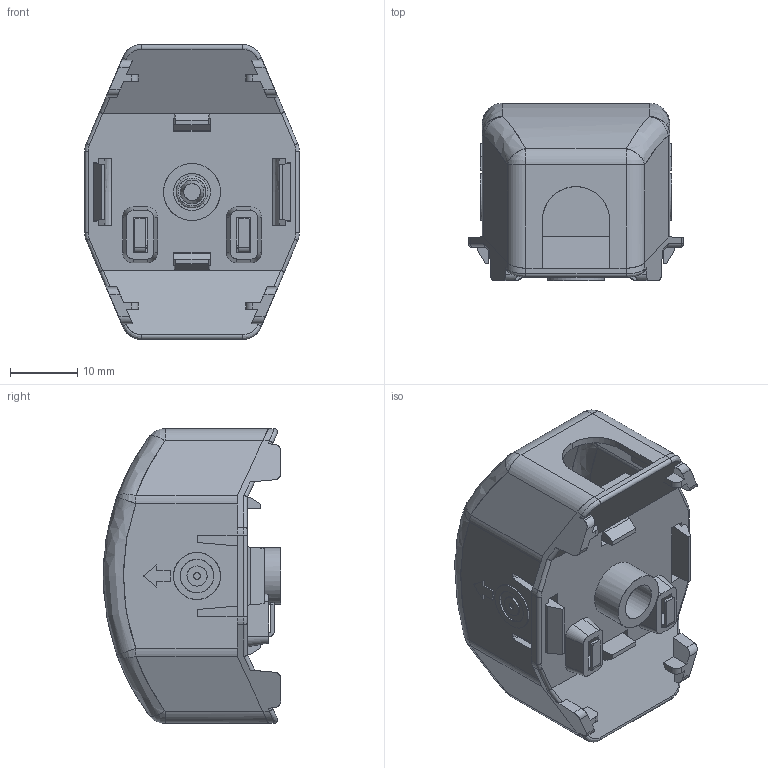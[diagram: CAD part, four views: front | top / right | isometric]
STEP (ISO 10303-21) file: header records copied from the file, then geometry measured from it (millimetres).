
FILE_DESCRIPTION(('STEP AP214'),'2;1');
FILE_NAME('07211.stp','2011-11-21T13:41:42',(''),(''),'2007.1.106','THINKDESIGN','');
FILE_SCHEMA(('AUTOMOTIVE_DESIGN'));
Length unit declared in the file: millimetre
Products named in the file (1): None
Bounding box: 32 x 26.5 x 44 mm (x, y, z)
Surface area: 12221 mm2 (no closed solid volume)
Topology: 0 solids, 0 shells, 461 faces, 2774 edges, 2729 vertices
Faces by surface type: plane 251, cylinder 126, bspline 84
Full cylindrical faces by diameter (mm): 1 x2, 3 x2, 3.5 x3, 5 x2, 5.5 x1, 7 x2, 8.5 x1
Entity records: 30761 total; most frequent: CARTESIAN_POINT 12647, DIRECTION 2968, COMPOSITE_CURVE_SEGMENT 2756, TRIMMED_CURVE 2003, VECTOR 1834, LINE 1834, AXIS2_PLACEMENT_3D 567, OUTER_BOUNDARY_CURVE 459
